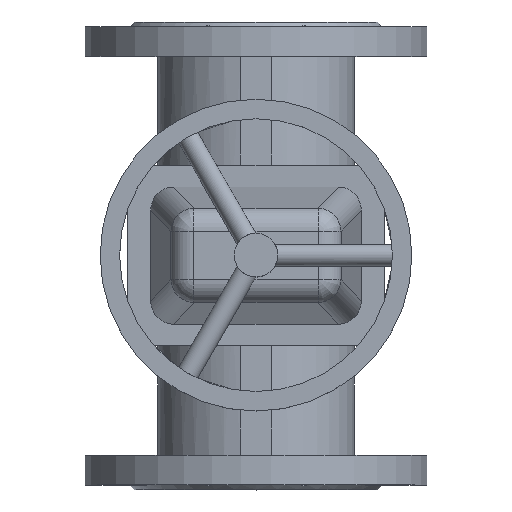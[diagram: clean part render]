
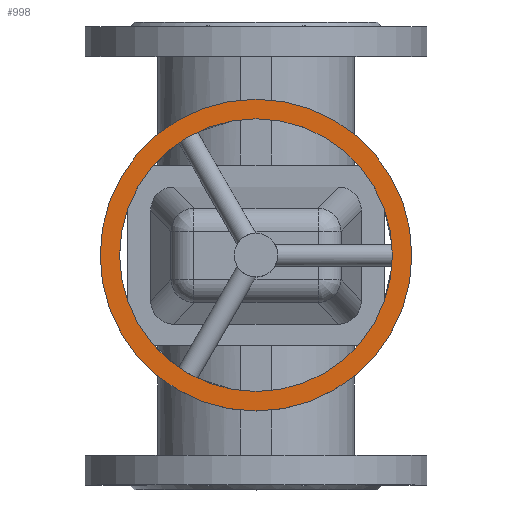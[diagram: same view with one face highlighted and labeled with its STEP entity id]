
A CAD part, top view. The second image highlights one B-rep face of the part: STEP entity #998.
In plain terms, the highlighted planar face has unit normal (0, 0, 1).
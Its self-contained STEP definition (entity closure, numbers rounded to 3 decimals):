
#998=ADVANCED_FACE('',(#2146,#2148),#2150,.T.);
#2146=FACE_BOUND('',#2147,.T.);
#2147=EDGE_LOOP('',(#2741));
#2148=FACE_BOUND('',#2149,.T.);
#2149=EDGE_LOOP('',(#2742));
#2150=PLANE('',#2151);
#2151=AXIS2_PLACEMENT_3D('',#2152,#2153,#2154);
#2152=CARTESIAN_POINT('',(0.,0.,324.5));
#2153=DIRECTION('',(0.,0.,1.));
#2154=DIRECTION('',(0.,-1.,0.));
#2741=ORIENTED_EDGE('',*,*,#3032,.T.);
#2742=ORIENTED_EDGE('',*,*,#3030,.T.);
#3030=EDGE_CURVE('',#3514,#3514,#3515,.F.);
#3032=EDGE_CURVE('',#3518,#3518,#3519,.T.);
#3514=VERTEX_POINT('',#6055);
#3515=CIRCLE('',#6056,87.5);
#3518=VERTEX_POINT('',#6065);
#3519=CIRCLE('',#6066,100.);
#6055=CARTESIAN_POINT('',(0.,-87.5,324.5));
#6056=AXIS2_PLACEMENT_3D('',#6057,#6058,#6059);
#6057=CARTESIAN_POINT('',(0.,0.,324.5));
#6058=DIRECTION('',(0.,0.,1.));
#6059=DIRECTION('',(0.,-1.,0.));
#6065=CARTESIAN_POINT('',(0.,-100.,324.5));
#6066=AXIS2_PLACEMENT_3D('',#6067,#6068,#6069);
#6067=CARTESIAN_POINT('',(0.,0.,324.5));
#6068=DIRECTION('',(0.,0.,1.));
#6069=DIRECTION('',(0.,-1.,0.));
